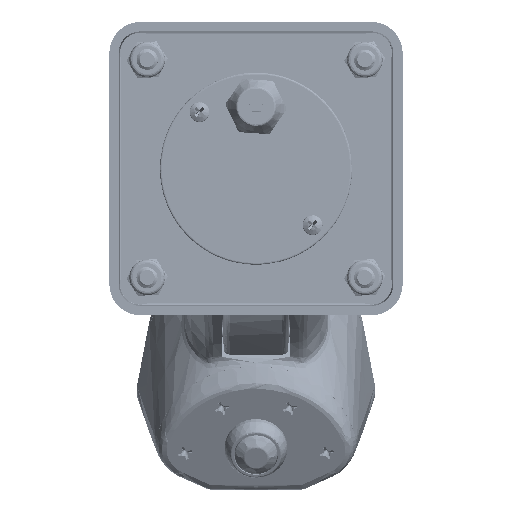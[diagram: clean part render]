
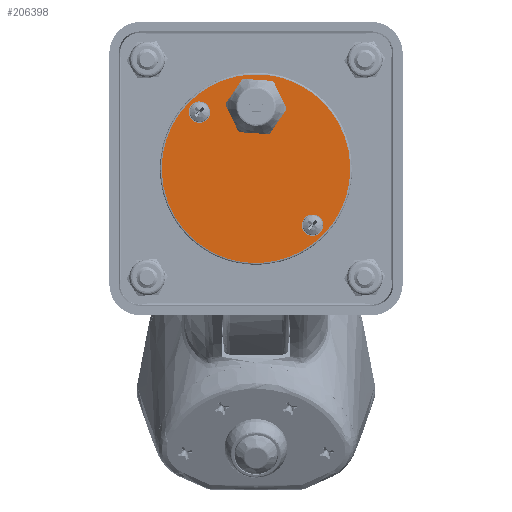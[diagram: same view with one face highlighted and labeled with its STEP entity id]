
A CAD part, front view. The second image highlights one B-rep face of the part: STEP entity #206398.
In plain terms, the highlighted planar face has unit normal (0, -1, 0).
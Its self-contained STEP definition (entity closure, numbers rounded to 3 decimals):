
#7246 = AXIS2_PLACEMENT_3D ( 'NONE', #20653, #152468, #39521 ) ;
#9916 = FACE_BOUND ( 'NONE', #217960, .T. ) ;
#10480 = DIRECTION ( 'NONE',  ( 0., 1., 0. ) ) ;
#13338 = AXIS2_PLACEMENT_3D ( 'NONE', #123411, #10480, #142306 ) ;
#20653 = CARTESIAN_POINT ( 'NONE',  ( -22.415, 0., 0. ) ) ;
#22278 = CARTESIAN_POINT ( 'NONE',  ( 6.551, 0., -12.322 ) ) ;
#23569 = EDGE_CURVE ( 'NONE', #35277, #120201, #201962, .T. ) ;
#32213 = ORIENTED_EDGE ( 'NONE', *, *, #152003, .F. ) ;
#35277 = VERTEX_POINT ( 'NONE', #22278 ) ;
#39521 = DIRECTION ( 'NONE',  ( 1., 0., 0. ) ) ;
#40544 = AXIS2_PLACEMENT_3D ( 'NONE', #62448, #194338, #81459 ) ;
#42412 = ORIENTED_EDGE ( 'NONE', *, *, #135138, .F. ) ;
#44412 = EDGE_CURVE ( 'NONE', #45714, #203124, #209957, .T. ) ;
#44757 = CARTESIAN_POINT ( 'NONE',  ( -52.857, 0., 26.429 ) ) ;
#45714 = VERTEX_POINT ( 'NONE', #179222 ) ;
#49640 = CIRCLE ( 'NONE', #40544, 5.754 ) ;
#50659 = AXIS2_PLACEMENT_3D ( 'NONE', #175945, #63011, #194890 ) ;
#56927 =( BOUNDED_CURVE ( )  B_SPLINE_CURVE ( 3, ( #59110, #171992, #97071, #228844 ),
 .UNSPECIFIED., .F., .F. ) 
 B_SPLINE_CURVE_WITH_KNOTS ( ( 4, 4 ),
 ( 0., 1. ),
 .UNSPECIFIED. ) 
 CURVE ( )  GEOMETRIC_REPRESENTATION_ITEM ( )  RATIONAL_B_SPLINE_CURVE ( ( 1., 0.333, 0.333, 1. ) ) 
 REPRESENTATION_ITEM ( '' )  );
#59110 = CARTESIAN_POINT ( 'NONE',  ( 0., 0., 26.429 ) ) ;
#62448 = CARTESIAN_POINT ( 'NONE',  ( 12.306, 0., -12.322 ) ) ;
#63011 = DIRECTION ( 'NONE',  ( 0., -1., 0. ) ) ;
#68695 = CARTESIAN_POINT ( 'NONE',  ( -22.415, 0., 0. ) ) ;
#74369 = DIRECTION ( 'NONE',  ( 0., -1., 0. ) ) ;
#81459 = DIRECTION ( 'NONE',  ( 1., 0., 0. ) ) ;
#87693 = DIRECTION ( 'NONE',  ( 1., 0., 0. ) ) ;
#91576 = DIRECTION ( 'NONE',  ( 0., -1., 0. ) ) ;
#94718 = EDGE_CURVE ( 'NONE', #203124, #45714, #197809, .T. ) ;
#97071 = CARTESIAN_POINT ( 'NONE',  ( 52.857, 0., -26.429 ) ) ;
#97441 = EDGE_LOOP ( 'NONE', ( #158485, #129843 ) ) ;
#100614 = ORIENTED_EDGE ( 'NONE', *, *, #151312, .F. ) ;
#103962 = CARTESIAN_POINT ( 'NONE',  ( 18.06, 0., -12.322 ) ) ;
#104442 = PLANE ( 'NONE',  #13338 ) ;
#110284 = FACE_OUTER_BOUND ( 'NONE', #191575, .T. ) ;
#120201 = VERTEX_POINT ( 'NONE', #103962 ) ;
#123411 = CARTESIAN_POINT ( 'NONE',  ( 0., 0., 0. ) ) ;
#129843 = ORIENTED_EDGE ( 'NONE', *, *, #94718, .F. ) ;
#135138 = EDGE_CURVE ( 'NONE', #120201, #35277, #49640, .T. ) ;
#140218 = AXIS2_PLACEMENT_3D ( 'NONE', #68695, #200591, #87693 ) ;
#142306 = DIRECTION ( 'NONE',  ( -1., 0., 0. ) ) ;
#150229 = ORIENTED_EDGE ( 'NONE', *, *, #238968, .F. ) ;
#151312 = EDGE_CURVE ( 'NONE', #183656, #200726, #232082, .T. ) ;
#152003 = EDGE_CURVE ( 'NONE', #214583, #231270, #173420, .T. ) ;
#152468 = DIRECTION ( 'NONE',  ( 0., -1., 0. ) ) ;
#158485 = ORIENTED_EDGE ( 'NONE', *, *, #44412, .F. ) ;
#171810 = CARTESIAN_POINT ( 'NONE',  ( 0., 0., 26.429 ) ) ;
#171992 = CARTESIAN_POINT ( 'NONE',  ( 52.857, 0., 26.429 ) ) ;
#173420 =( BOUNDED_CURVE ( )  B_SPLINE_CURVE ( 3, ( #195581, #176636, #44757, #214540 ),
 .UNSPECIFIED., .F., .F. ) 
 B_SPLINE_CURVE_WITH_KNOTS ( ( 4, 4 ),
 ( 0., 1. ),
 .UNSPECIFIED. ) 
 CURVE ( )  GEOMETRIC_REPRESENTATION_ITEM ( )  RATIONAL_B_SPLINE_CURVE ( ( 1., 0.333, 0.333, 1. ) ) 
 REPRESENTATION_ITEM ( '' )  );
#175656 = CIRCLE ( 'NONE', #140218, 2.997 ) ;
#175945 = CARTESIAN_POINT ( 'NONE',  ( 12.306, 0., -12.322 ) ) ;
#176636 = CARTESIAN_POINT ( 'NONE',  ( -52.857, 0., -26.429 ) ) ;
#178112 = ORIENTED_EDGE ( 'NONE', *, *, #23569, .F. ) ;
#179222 = CARTESIAN_POINT ( 'NONE',  ( 25.413, 0., 0. ) ) ;
#183656 = VERTEX_POINT ( 'NONE', #211795 ) ;
#187260 = CARTESIAN_POINT ( 'NONE',  ( 22.416, 0., 0. ) ) ;
#191575 = EDGE_LOOP ( 'NONE', ( #150229, #32213 ) ) ;
#194338 = DIRECTION ( 'NONE',  ( 0., -1., 0. ) ) ;
#194890 = DIRECTION ( 'NONE',  ( 1., 0., 0. ) ) ;
#195581 = CARTESIAN_POINT ( 'NONE',  ( 0., 0., -26.429 ) ) ;
#197809 = CIRCLE ( 'NONE', #230764, 2.997 ) ;
#200591 = DIRECTION ( 'NONE',  ( 0., -1., 0. ) ) ;
#200726 = VERTEX_POINT ( 'NONE', #218702 ) ;
#201962 = CIRCLE ( 'NONE', #50659, 5.754 ) ;
#203124 = VERTEX_POINT ( 'NONE', #235144 ) ;
#204438 = CARTESIAN_POINT ( 'NONE',  ( 22.416, 0., 0. ) ) ;
#204590 = FACE_BOUND ( 'NONE', #206176, .T. ) ;
#206176 = EDGE_LOOP ( 'NONE', ( #42412, #178112 ) ) ;
#206237 = DIRECTION ( 'NONE',  ( 1., 0., 0. ) ) ;
#206398 = ADVANCED_FACE ( 'NONE', ( #9916, #210486, #110284, #204590 ), #104442, .F. ) ;
#207961 = AXIS2_PLACEMENT_3D ( 'NONE', #187260, #74369, #206237 ) ;
#209957 = CIRCLE ( 'NONE', #207961, 2.997 ) ;
#210486 = FACE_BOUND ( 'NONE', #97441, .T. ) ;
#211795 = CARTESIAN_POINT ( 'NONE',  ( -25.413, 0., 0. ) ) ;
#214540 = CARTESIAN_POINT ( 'NONE',  ( 0., 0., 26.429 ) ) ;
#214583 = VERTEX_POINT ( 'NONE', #240935 ) ;
#217960 = EDGE_LOOP ( 'NONE', ( #228149, #100614 ) ) ;
#218702 = CARTESIAN_POINT ( 'NONE',  ( -19.418, 0., 0. ) ) ;
#223366 = DIRECTION ( 'NONE',  ( 1., 0., 0. ) ) ;
#228149 = ORIENTED_EDGE ( 'NONE', *, *, #233155, .F. ) ;
#228844 = CARTESIAN_POINT ( 'NONE',  ( 0., 0., -26.429 ) ) ;
#230764 = AXIS2_PLACEMENT_3D ( 'NONE', #204438, #91576, #223366 ) ;
#231270 = VERTEX_POINT ( 'NONE', #171810 ) ;
#232082 = CIRCLE ( 'NONE', #7246, 2.997 ) ;
#233155 = EDGE_CURVE ( 'NONE', #200726, #183656, #175656, .T. ) ;
#235144 = CARTESIAN_POINT ( 'NONE',  ( 19.418, 0., 0. ) ) ;
#238968 = EDGE_CURVE ( 'NONE', #231270, #214583, #56927, .T. ) ;
#240935 = CARTESIAN_POINT ( 'NONE',  ( 0., 0., -26.429 ) ) ;
